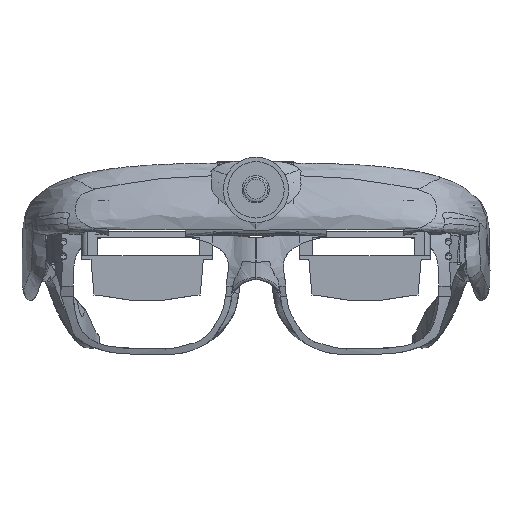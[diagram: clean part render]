
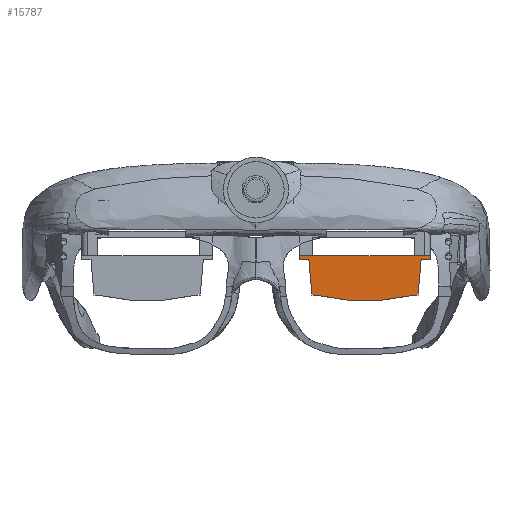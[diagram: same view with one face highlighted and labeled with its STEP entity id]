
A CAD part, top view. The second image highlights one B-rep face of the part: STEP entity #15787.
In plain terms, the highlighted planar face has unit normal (0, 0, 1) as drawn and (0, 1, 0) by its records, which use the part's own axes.
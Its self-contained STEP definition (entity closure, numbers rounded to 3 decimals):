
#429=LINE('',#59826,#1287);
#433=LINE('',#59834,#1291);
#436=LINE('',#59840,#1294);
#440=LINE('',#59909,#1298);
#443=LINE('',#59915,#1301);
#446=LINE('',#59921,#1304);
#449=LINE('',#59927,#1307);
#460=LINE('',#59956,#1318);
#461=LINE('',#59958,#1319);
#462=LINE('',#59960,#1320);
#463=LINE('',#59961,#1321);
#1287=VECTOR('',#17886,10.);
#1291=VECTOR('',#17892,10.);
#1294=VECTOR('',#17897,10.);
#1298=VECTOR('',#17903,10.);
#1301=VECTOR('',#17908,10.);
#1304=VECTOR('',#17913,10.);
#1307=VECTOR('',#17918,10.);
#1318=VECTOR('',#17945,10.);
#1319=VECTOR('',#17948,10.);
#1320=VECTOR('',#17949,10.);
#1321=VECTOR('',#17950,10.);
#2252=PLANE('',#16667);
#2552=(
BOUNDED_CURVE()
B_SPLINE_CURVE(5,(#59875,#59876,#59877,#59878,#59879,#59880,#59881,#59882,
#59883,#59884,#59885,#59886,#59887,#59888,#59889),.UNSPECIFIED.,.F.,.F.)
B_SPLINE_CURVE_WITH_KNOTS((6,1,1,1,1,1,1,1,1,1,6),(0.,0.1,0.2,0.3,0.4,0.5,
0.6,0.7,0.8,0.9,1.),.UNSPECIFIED.)
CURVE()
GEOMETRIC_REPRESENTATION_ITEM()
RATIONAL_B_SPLINE_CURVE((1.,1.,1.,1.,1.,1.,1.,1.,1.,1.,1.,1.,1.,1.,1.))
REPRESENTATION_ITEM('')
);
#3306=FACE_OUTER_BOUND('',#4205,.T.);
#4205=EDGE_LOOP('',(#12130,#12131,#12132,#12133,#12134,#12135,#12136,#12137,
#12138,#12139,#12140,#12141));
#6709=VERTEX_POINT('',#59824);
#6710=VERTEX_POINT('',#59825);
#6713=VERTEX_POINT('',#59833);
#6715=VERTEX_POINT('',#59839);
#6717=VERTEX_POINT('',#59874);
#6719=VERTEX_POINT('',#59908);
#6721=VERTEX_POINT('',#59914);
#6723=VERTEX_POINT('',#59920);
#6725=VERTEX_POINT('',#59926);
#6734=VERTEX_POINT('',#59952);
#6735=VERTEX_POINT('',#59954);
#6736=VERTEX_POINT('',#59959);
#8666=EDGE_CURVE('',#6709,#6710,#429,.T.);
#8670=EDGE_CURVE('',#6709,#6713,#433,.T.);
#8673=EDGE_CURVE('',#6713,#6715,#436,.T.);
#8676=EDGE_CURVE('',#6717,#6715,#2552,.T.);
#8679=EDGE_CURVE('',#6719,#6717,#440,.T.);
#8682=EDGE_CURVE('',#6721,#6719,#443,.T.);
#8685=EDGE_CURVE('',#6721,#6723,#446,.T.);
#8688=EDGE_CURVE('',#6710,#6725,#449,.T.);
#8703=EDGE_CURVE('',#6734,#6735,#460,.T.);
#8704=EDGE_CURVE('',#6734,#6723,#461,.T.);
#8705=EDGE_CURVE('',#6736,#6735,#462,.T.);
#8706=EDGE_CURVE('',#6725,#6736,#463,.T.);
#12130=ORIENTED_EDGE('',*,*,#8704,.F.);
#12131=ORIENTED_EDGE('',*,*,#8703,.T.);
#12132=ORIENTED_EDGE('',*,*,#8705,.F.);
#12133=ORIENTED_EDGE('',*,*,#8706,.F.);
#12134=ORIENTED_EDGE('',*,*,#8688,.F.);
#12135=ORIENTED_EDGE('',*,*,#8666,.F.);
#12136=ORIENTED_EDGE('',*,*,#8670,.T.);
#12137=ORIENTED_EDGE('',*,*,#8673,.T.);
#12138=ORIENTED_EDGE('',*,*,#8676,.F.);
#12139=ORIENTED_EDGE('',*,*,#8679,.F.);
#12140=ORIENTED_EDGE('',*,*,#8682,.F.);
#12141=ORIENTED_EDGE('',*,*,#8685,.T.);
#15787=ADVANCED_FACE('',(#3306),#2252,.T.);
#16667=AXIS2_PLACEMENT_3D('',#59957,#17946,#17947);
#17886=DIRECTION('',(0.088,0.,0.996));
#17892=DIRECTION('',(0.,0.,-1.));
#17897=DIRECTION('',(-1.,0.,0.));
#17903=DIRECTION('',(1.,0.,0.));
#17908=DIRECTION('',(0.,0.,-1.));
#17913=DIRECTION('',(-0.088,0.,0.996));
#17918=DIRECTION('',(1.,0.,0.));
#17945=DIRECTION('',(0.,0.,1.));
#17946=DIRECTION('center_axis',(0.,1.,0.));
#17947=DIRECTION('ref_axis',(-1.,0.,0.));
#17948=DIRECTION('',(1.,0.,0.));
#17949=DIRECTION('',(-1.,0.,0.));
#17950=DIRECTION('',(0.,0.,1.));
#59824=CARTESIAN_POINT('',(30.105,-3.,-14.));
#59825=CARTESIAN_POINT('',(31.08,-3.,-3.));
#59826=CARTESIAN_POINT('',(30.105,-3.,-14.));
#59833=CARTESIAN_POINT('',(30.105,-3.,-14.6));
#59834=CARTESIAN_POINT('',(30.105,-3.,-14.));
#59839=CARTESIAN_POINT('',(28.905,-3.,-14.6));
#59840=CARTESIAN_POINT('',(30.105,-3.,-14.6));
#59874=CARTESIAN_POINT('',(-3.695,-3.,-14.6));
#59875=CARTESIAN_POINT('Ctrl Pts',(-3.695,-3.,-14.6));
#59876=CARTESIAN_POINT('Ctrl Pts',(-3.043,-3.,
-14.744));
#59877=CARTESIAN_POINT('Ctrl Pts',(-1.739,-3.,
-15.02));
#59878=CARTESIAN_POINT('Ctrl Pts',(0.217,-3.,
-15.395));
#59879=CARTESIAN_POINT('Ctrl Pts',(2.825,-3.,-15.82));
#59880=CARTESIAN_POINT('Ctrl Pts',(6.085,-3.,-16.213));
#59881=CARTESIAN_POINT('Ctrl Pts',(9.345,-3.,-16.458));
#59882=CARTESIAN_POINT('Ctrl Pts',(12.605,-3.,-16.542));
#59883=CARTESIAN_POINT('Ctrl Pts',(15.865,-3.,-16.458));
#59884=CARTESIAN_POINT('Ctrl Pts',(19.125,-3.,-16.213));
#59885=CARTESIAN_POINT('Ctrl Pts',(22.385,-3.,-15.82));
#59886=CARTESIAN_POINT('Ctrl Pts',(24.993,-3.,-15.395));
#59887=CARTESIAN_POINT('Ctrl Pts',(26.949,-3.,-15.02));
#59888=CARTESIAN_POINT('Ctrl Pts',(28.253,-3.,-14.744));
#59889=CARTESIAN_POINT('Ctrl Pts',(28.905,-3.,-14.6));
#59908=CARTESIAN_POINT('',(-4.895,-3.,-14.6));
#59909=CARTESIAN_POINT('',(-4.895,-3.,-14.6));
#59914=CARTESIAN_POINT('',(-4.895,-3.,-14.));
#59915=CARTESIAN_POINT('',(-4.895,-3.,-14.));
#59920=CARTESIAN_POINT('',(-5.87,-3.,-3.));
#59921=CARTESIAN_POINT('',(-4.895,-3.,-14.));
#59926=CARTESIAN_POINT('',(34.11,-3.,-3.));
#59927=CARTESIAN_POINT('',(-8.89,-3.,-3.));
#59952=CARTESIAN_POINT('',(-8.89,-3.,-3.));
#59954=CARTESIAN_POINT('',(-8.89,-3.,-1.6));
#59956=CARTESIAN_POINT('',(-8.89,-3.,-3.));
#59957=CARTESIAN_POINT('Origin',(34.11,-3.,-3.));
#59958=CARTESIAN_POINT('',(-8.89,-3.,-3.));
#59959=CARTESIAN_POINT('',(34.11,-3.,-1.6));
#59960=CARTESIAN_POINT('',(-8.89,-3.,-1.6));
#59961=CARTESIAN_POINT('',(34.11,-3.,-3.));
